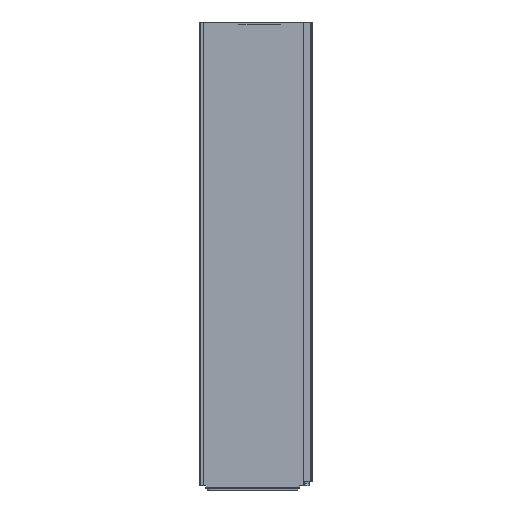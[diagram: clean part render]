
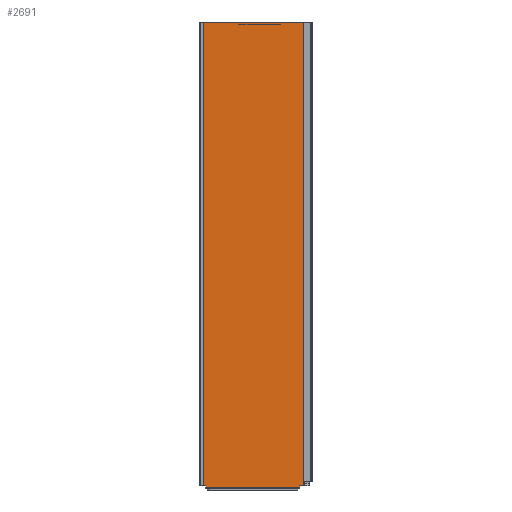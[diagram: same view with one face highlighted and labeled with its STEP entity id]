
A CAD part, left-side view. The second image highlights one B-rep face of the part: STEP entity #2691.
In plain terms, the highlighted planar face has unit normal (-1, 0, 0).
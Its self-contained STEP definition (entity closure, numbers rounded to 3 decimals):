
#143 = CARTESIAN_POINT ( 'NONE',  ( -0.8, 107.7, -488. ) ) ;
#308 = LINE ( 'NONE', #4509, #7371 ) ;
#347 = VERTEX_POINT ( 'NONE', #4762 ) ;
#370 = CARTESIAN_POINT ( 'NONE',  ( -0.8, 102.5, -488. ) ) ;
#390 = AXIS2_PLACEMENT_3D ( 'NONE', #1687, #4949, #9890 ) ;
#879 = DIRECTION ( 'NONE',  ( 0., -1., 0. ) ) ;
#926 = VERTEX_POINT ( 'NONE', #1447 ) ;
#983 = LINE ( 'NONE', #143, #8136 ) ;
#989 = VERTEX_POINT ( 'NONE', #8021 ) ;
#1447 = CARTESIAN_POINT ( 'NONE',  ( -0.8, -0.8, 0. ) ) ;
#1653 = LINE ( 'NONE', #2440, #3808 ) ;
#1687 = CARTESIAN_POINT ( 'NONE',  ( -0.8, 107.7, -488. ) ) ;
#1693 = DIRECTION ( 'NONE',  ( 0., 1., 0. ) ) ;
#2084 = VERTEX_POINT ( 'NONE', #370 ) ;
#2088 = VECTOR ( 'NONE', #3553, 1000. ) ;
#2272 = VECTOR ( 'NONE', #6456, 1000. ) ;
#2376 = DIRECTION ( 'NONE',  ( 0., 0., 1. ) ) ;
#2377 = PLANE ( 'NONE',  #390 ) ;
#2440 = CARTESIAN_POINT ( 'NONE',  ( -0.8, 102.5, -490. ) ) ;
#2452 = ORIENTED_EDGE ( 'NONE', *, *, #6242, .T. ) ;
#2691 = ADVANCED_FACE ( 'NONE', ( #3395 ), #2377, .T. ) ;
#2696 = LINE ( 'NONE', #4194, #2088 ) ;
#2752 = LINE ( 'NONE', #6012, #4692 ) ;
#3085 = CARTESIAN_POINT ( 'NONE',  ( -0.8, 107.7, -488. ) ) ;
#3160 = VECTOR ( 'NONE', #2376, 1000. ) ;
#3351 = ORIENTED_EDGE ( 'NONE', *, *, #3679, .F. ) ;
#3395 = FACE_OUTER_BOUND ( 'NONE', #6971, .T. ) ;
#3537 = DIRECTION ( 'NONE',  ( 0., 0., 1. ) ) ;
#3553 = DIRECTION ( 'NONE',  ( 0., -1., 0. ) ) ;
#3679 = EDGE_CURVE ( 'NONE', #8120, #926, #2696, .T. ) ;
#3808 = VECTOR ( 'NONE', #8123, 1000. ) ;
#4194 = CARTESIAN_POINT ( 'NONE',  ( -0.8, 107.7, 0. ) ) ;
#4326 = ORIENTED_EDGE ( 'NONE', *, *, #6820, .F. ) ;
#4382 = VECTOR ( 'NONE', #8940, 1000. ) ;
#4509 = CARTESIAN_POINT ( 'NONE',  ( -0.8, 3.5, -490. ) ) ;
#4692 = VECTOR ( 'NONE', #1693, 1000. ) ;
#4762 = CARTESIAN_POINT ( 'NONE',  ( -0.8, 3.5, -490.8 ) ) ;
#4949 = DIRECTION ( 'NONE',  ( -1., 0., 0. ) ) ;
#5152 = ORIENTED_EDGE ( 'NONE', *, *, #7201, .F. ) ;
#5275 = EDGE_CURVE ( 'NONE', #8237, #2084, #983, .T. ) ;
#5434 = ORIENTED_EDGE ( 'NONE', *, *, #5275, .T. ) ;
#5748 = CARTESIAN_POINT ( 'NONE',  ( -0.8, 107.7, 0. ) ) ;
#5851 = ORIENTED_EDGE ( 'NONE', *, *, #9730, .T. ) ;
#6012 = CARTESIAN_POINT ( 'NONE',  ( -0.8, 3.5, -490.8 ) ) ;
#6242 = EDGE_CURVE ( 'NONE', #347, #8075, #308, .T. ) ;
#6453 = LINE ( 'NONE', #9704, #3160 ) ;
#6456 = DIRECTION ( 'NONE',  ( 0., 0., 1. ) ) ;
#6820 = EDGE_CURVE ( 'NONE', #989, #2084, #1653, .T. ) ;
#6971 = EDGE_LOOP ( 'NONE', ( #4326, #9892, #2452, #5851, #10040, #3351, #5152, #5434 ) ) ;
#7201 = EDGE_CURVE ( 'NONE', #8237, #8120, #8756, .T. ) ;
#7371 = VECTOR ( 'NONE', #3537, 1000. ) ;
#7381 = CARTESIAN_POINT ( 'NONE',  ( -0.8, 107.7, -488. ) ) ;
#7437 = LINE ( 'NONE', #7381, #4382 ) ;
#8021 = CARTESIAN_POINT ( 'NONE',  ( -0.8, 102.5, -490.8 ) ) ;
#8075 = VERTEX_POINT ( 'NONE', #8817 ) ;
#8120 = VERTEX_POINT ( 'NONE', #5748 ) ;
#8123 = DIRECTION ( 'NONE',  ( 0., 0., 1. ) ) ;
#8136 = VECTOR ( 'NONE', #879, 1000. ) ;
#8237 = VERTEX_POINT ( 'NONE', #9441 ) ;
#8650 = EDGE_CURVE ( 'NONE', #347, #989, #2752, .T. ) ;
#8756 = LINE ( 'NONE', #3085, #2272 ) ;
#8817 = CARTESIAN_POINT ( 'NONE',  ( -0.8, 3.5, -488. ) ) ;
#8940 = DIRECTION ( 'NONE',  ( 0., -1., 0. ) ) ;
#9184 = EDGE_CURVE ( 'NONE', #9675, #926, #6453, .T. ) ;
#9441 = CARTESIAN_POINT ( 'NONE',  ( -0.8, 107.7, -488. ) ) ;
#9675 = VERTEX_POINT ( 'NONE', #9876 ) ;
#9704 = CARTESIAN_POINT ( 'NONE',  ( -0.8, -0.8, -488. ) ) ;
#9730 = EDGE_CURVE ( 'NONE', #8075, #9675, #7437, .T. ) ;
#9876 = CARTESIAN_POINT ( 'NONE',  ( -0.8, -0.8, -488. ) ) ;
#9890 = DIRECTION ( 'NONE',  ( 0., -1., 0. ) ) ;
#9892 = ORIENTED_EDGE ( 'NONE', *, *, #8650, .F. ) ;
#10040 = ORIENTED_EDGE ( 'NONE', *, *, #9184, .T. ) ;
